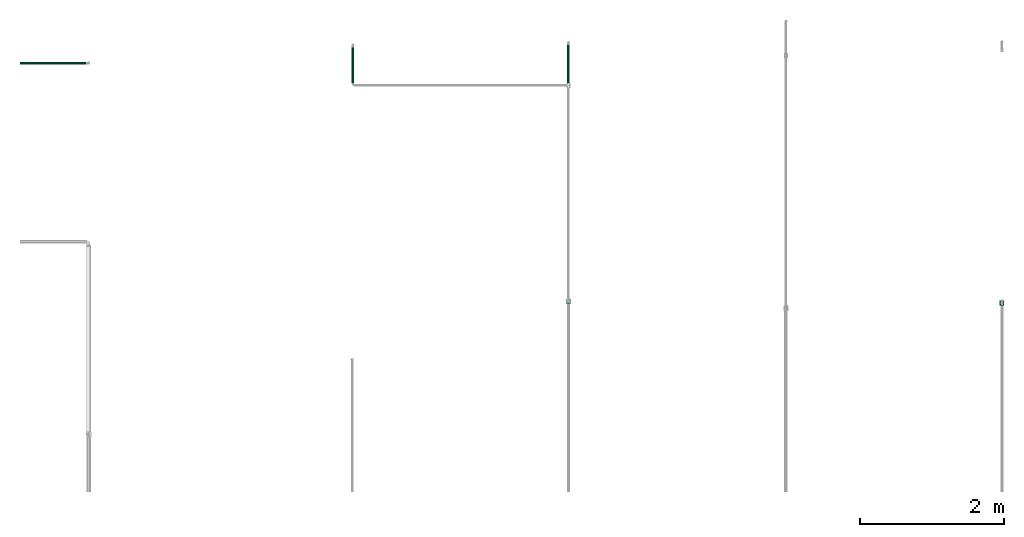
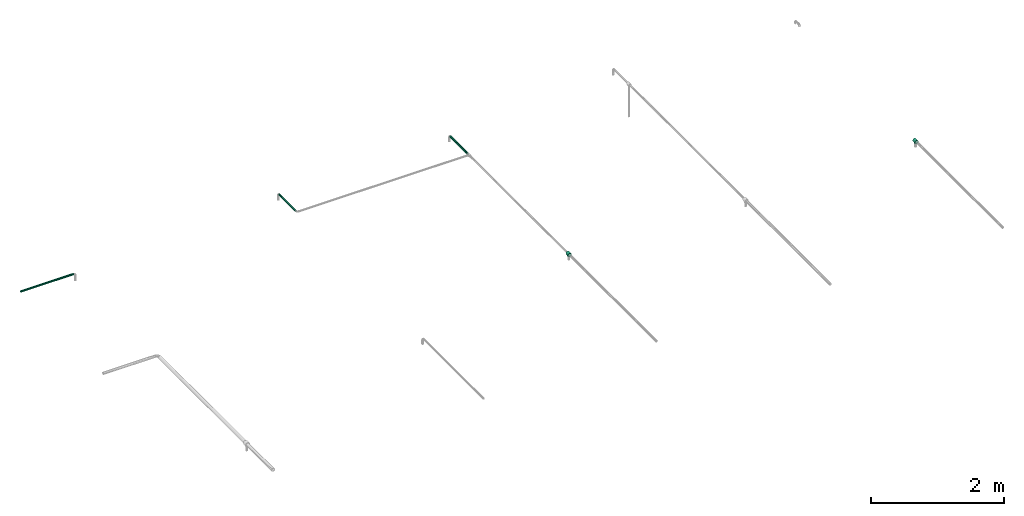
# One storey, part 2 of 17: 3 flow segments, 2 flow fittings.
"""IFC2X3 building model written with IfcOpenShell, lengths in millimetres."""

from ifc_helpers import new_model, entity, si_unit, converted_unit, derived_unit, direction, frame, origin_with_axes, origin_2d_with_axis, place, context, subcontext, project, spatial, hollow_circle, extrude, open_shell, surface_model, source, transform, mapped, type_object, element, save


model = new_model("IFC2X3")

# Units and contexts
model_context = context("Model", 3, precision=0.01, world=frame((0.0, 4.29681676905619e-09, 0.0)), true_north=direction((4.01073788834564e-13, 1.0)))
plan_context = context("Plan", 3, precision=0.01, world=frame((0.0, 4.29681676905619e-09, 0.0)), true_north=direction((4.01073788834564e-13, 1.0)))
body_context = subcontext(model_context, "Body", "Model", "MODEL_VIEW")
ifc_project = project(units=[converted_unit("PLANEANGLEUNIT", "DEGREE", entity("IfcPositiveLengthMeasure", 0.0174532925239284), si_unit("PLANEANGLEUNIT", "RADIAN"), dimensions=[0, 0, 0, 0, 0, 0, 0]), si_unit("AREAUNIT", "SQUARE_METRE"), si_unit("LENGTHUNIT", "METRE", prefix="MILLI"), si_unit("MASSUNIT", "GRAM", prefix="KILO"), si_unit("POWERUNIT", "WATT"), si_unit("PRESSUREUNIT", "PASCAL"), si_unit("FORCEUNIT", "NEWTON", prefix="KILO"), si_unit("ELECTRICVOLTAGEUNIT", "VOLT"), si_unit("ELECTRICCURRENTUNIT", "AMPERE"), si_unit("THERMODYNAMICTEMPERATUREUNIT", "DEGREE_CELSIUS"), si_unit("TIMEUNIT", "SECOND"), si_unit("VOLUMEUNIT", "CUBIC_METRE"), derived_unit("LINEARVELOCITYUNIT", [(si_unit("LENGTHUNIT", "METRE"), 1), (si_unit("TIMEUNIT", "SECOND"), -1)]), derived_unit("VOLUMETRICFLOWRATEUNIT", [(si_unit("VOLUMEUNIT", "CUBIC_METRE"), 1), (si_unit("TIMEUNIT", "SECOND"), -1)]), derived_unit("THERMALTRANSMITTANCEUNIT", [(si_unit("POWERUNIT", "WATT"), 1), (si_unit("THERMODYNAMICTEMPERATUREUNIT", "KELVIN"), -1), (si_unit("AREAUNIT", "SQUARE_METRE"), -1)]), derived_unit("SOUNDPRESSUREUNIT", [(si_unit("PRESSUREUNIT", "PASCAL"), 1)])], contexts=[model_context, plan_context])

# Site, building, storey
site_placement = place(None, frame((0.0, -4.29681676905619e-09, 0.0), z_axis=(0.0, 0.0, 1.0), x_axis=(1.0, 0.0, 0.0)))
site = spatial("IfcSite", under=ifc_project, at=site_placement, Name="ENGM", CompositionType="ELEMENT")
building_placement = place(site_placement, frame((0.0, 4.29681676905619e-09, 0.0), z_axis=(0.0, 0.0, 1.0), x_axis=(1.0, 0.0, 0.0)))
building = spatial("IfcBuilding", under=site, at=building_placement, Name="TH", CompositionType="ELEMENT")
storey_placement = place(building_placement, frame((0.0, 0.0, 205200.0), z_axis=(0.0, 0.0, 1.0), x_axis=(1.0, 0.0, 0.0)))
storey = spatial("IfcBuildingStorey", under=building, at=storey_placement, Name="Nivå D + 1,2 m", CompositionType="ELEMENT", Elevation=205200.0)

# Flow fittings
pipe_fitting_type = type_object("IfcPipeFittingType", Name="magi_pipe_fe_tee_centric_90_NOR 2", PredefinedType="JUNCTION")
shared_shape_1 = source(origin_with_axes(), body_context, "Body", "SurfaceModel", [
    surface_model("IfcShellBasedSurfaceModel", [(-33.8, 0.0, -21.2), (-33.8, -5.48696, -20.47763), (-33.8, 5.48696, -20.47763), (-33.8, 10.6, -18.35974), (-33.8, 14.99066, -14.99066), (-33.8, -20.47763, 5.48696), (-33.8, 18.35974, -10.6), (-33.8, 10.6, 18.35974), (-33.8, -14.99066, -14.99066), (-33.8, -18.35974, -10.6), (-33.8, -10.6, -18.35974), (-33.8, -20.47763, -5.48696), (-33.8, -21.2, 0.0), (-33.8, 18.35974, 10.6), (-33.8, 20.47763, -5.48696), (-33.8, 20.47763, 5.48696), (-33.8, 21.2, 0.0), (-33.8, 14.99066, 14.99066), (-33.8, 5.48696, 20.47763), (-33.8, 0.0, 21.2), (-33.8, -18.35974, 10.6), (-33.8, -14.99066, 14.99066), (-33.8, -10.6, 18.35974), (-33.8, -5.48696, 20.47763), (33.8, 5.48696, -20.47763), (33.8, -5.48696, -20.47763), (33.8, 0.0, -21.2), (33.8, 14.99066, -14.99066), (33.8, 10.6, -18.35974), (33.8, 18.35974, -10.6), (33.8, 20.47763, -5.48696), (33.8, -21.2, 0.0), (33.8, -10.6, -18.35974), (33.8, -18.35974, -10.6), (33.8, -14.99066, -14.99066), (33.8, -20.47763, -5.48696), (33.8, -20.47763, 5.48696), (33.8, 21.2, 0.0), (33.8, 20.47763, 5.48696), (33.8, 18.35974, 10.6), (33.8, 10.6, 18.35974), (33.8, 14.99066, 14.99066), (33.8, 0.0, 21.2), (33.8, 5.48696, 20.47763), (33.8, -14.99066, 14.99066), (33.8, -18.35974, 10.6), (33.8, -10.6, 18.35974), (33.8, -5.48696, 20.47763), (16.9, -21.2, 0.0), (15.78624, -20.32327, 6.03364), (12.81343, -18.11115, 11.01935), (8.52479, -15.37862, 14.59239), (3.07939, -13.16482, 16.61708), (-16.9, -21.2, 0.0), (-15.78686, -20.32375, 6.032), (-8.52604, -15.37932, 14.59166), (-3.0848, -13.16609, 16.61608), (-12.81602, -18.11299, 11.01634), (3.07939, -13.16482, -16.61708), (12.81343, -18.11115, -11.01935), (8.52479, -15.37862, -14.59239), (15.78624, -20.32327, -6.03364), (-3.0848, -13.16609, -16.61608), (-8.52604, -15.37932, -14.59166), (-12.81602, -18.11299, -11.01634), (-15.78686, -20.32375, -6.032), (4.37404, -31.8, -16.32415), (-16.9, -31.8, 0.0), (0.0, -31.8, -16.9), (14.63583, -31.8, -8.45), (8.45, -31.8, -14.63583), (16.32415, -31.8, -4.37404), (11.9501, -31.8, -11.9501), (-11.9501, -31.8, -11.9501), (-8.45, -31.8, -14.63583), (-4.37404, -31.8, -16.32415), (-14.63583, -31.8, -8.45), (-16.32415, -31.8, -4.37404), (8.45, -31.8, 14.63583), (16.32415, -31.8, 4.37404), (14.63583, -31.8, 8.45), (11.9501, -31.8, 11.9501), (-16.32415, -31.8, 4.37404), (-11.9501, -31.8, 11.9501), (-14.63583, -31.8, 8.45), (-8.45, -31.8, 14.63583), (0.0, -31.8, 16.9), (-4.37404, -31.8, 16.32415), (-16.34343, -20.76188, 3.016), (16.34312, -20.76163, 3.01682), (-0.00271, -13.16546, 16.61658), (4.37404, -31.8, 16.32415), (16.9, -31.8, 0.0), (16.34312, -20.76163, -3.01682), (-0.00271, -13.16546, -16.61658), (-16.34343, -20.76188, -3.016), (-33.8, 15.1, -26.15397), (-33.8, 7.81634, -29.17096), (-33.8, 0.0, -30.2), (-33.8, 29.17096, -7.81634), (-33.8, 26.15397, -15.1), (-33.8, 21.35462, -21.35462), (-33.8, 30.2, 0.0), (-33.8, -30.2, 0.0), (-33.8, -15.1, -26.15397), (-33.8, -21.35462, -21.35462), (-33.8, -7.81634, -29.17096), (-33.8, -26.15397, -15.1), (-33.8, -29.17096, -7.81634), (-33.8, 26.15397, 15.1), (-33.8, 29.17096, 7.81634), (-33.8, 15.1, 26.15397), (-33.8, -21.35462, 21.35462), (-33.8, 21.35462, 21.35462), (-33.8, 7.81634, 29.17096), (-33.8, -29.17096, 7.81634), (-33.8, -26.15397, 15.1), (-33.8, 0.0, 30.2), (33.8, -7.81634, -29.17096), (33.8, -21.35462, -21.35462), (33.8, -15.1, -26.15397), (33.8, -29.17096, -7.81634), (33.8, -26.15397, -15.1), (33.8, -30.2, 0.0), (33.8, 0.0, -30.2), (33.8, 30.2, 0.0), (33.8, 29.17096, 7.81634), (33.8, 26.15397, 15.1), (33.8, 15.1, 26.15397), (33.8, 21.35462, 21.35462), (33.8, 7.81634, 29.17096), (33.8, 0.0, 30.2), (33.8, -21.35462, 21.35462), (33.8, -7.81634, 29.17096), (-33.8, -7.81634, 29.17096), (33.8, 29.17096, -7.81634), (33.8, 26.15397, -15.1), (33.8, 21.35462, -21.35462), (33.8, 15.1, -26.15397), (33.8, 7.81634, -29.17096), (0.0, -31.8, -25.9), (6.70341, -31.8, -25.01748), (12.95, -31.8, -22.43006), (-6.70341, -31.8, -25.01748), (22.43006, -31.8, -12.95), (25.01748, -31.8, -6.70341), (18.31407, -31.8, -18.31407), (-18.31407, -31.8, -18.31407), (-12.95, -31.8, -22.43006), (-25.01748, -31.8, -6.70341), (-22.43006, -31.8, -12.95), (-25.9, -31.8, 0.0), (-18.31407, -31.8, 18.31407), (25.9, -31.8, 0.0), (25.01748, -31.8, 6.70341), (22.43006, -31.8, 12.95), (12.95, -31.8, 22.43006), (18.31407, -31.8, 18.31407), (0.0, -31.8, 25.9), (6.70341, -31.8, 25.01748), (-25.01748, -31.8, 6.70341), (-22.43006, -31.8, 12.95), (-6.70341, -31.8, 25.01748), (-12.95, -31.8, 22.43006), (-25.23811, -31.8, 5.02756), (-25.02404, -29.45583, 4.68189), (-19.54537, -24.96501, 16.99378), (-23.72377, -31.8, 9.82671), (-24.14808, -28.71166, 9.36378), (-13.02592, -20.27078, 22.38606), (-24.58606, -29.08375, 7.02284), (-25.46202, -29.82792, 2.34095), (-25.67937, -31.8, 1.67585), (-25.45874, -31.8, 3.35171), (-21.84672, -26.83834, 13.17878), (25.67937, -31.8, 1.67585), (25.68112, -30.01405, 1.17018), (25.46224, -29.82811, 2.34036), (-4.77205, -16.24815, 25.45658), (4.78083, -16.25074, 25.45493), (0.00439, -16.24944, 25.45576), (25.02449, -29.45621, 4.68072), (24.58674, -29.08432, 7.02108), (25.45874, -31.8, 3.35171), (13.02722, -20.27161, 22.3853), (19.54804, -24.96709, 16.99071), (25.9, -30.2, 0.0), (-25.68101, -30.01396, 1.17047), (-25.9, -30.2, 0.0), (23.72377, -31.8, 9.82671), (24.14898, -28.71243, 9.36144), (21.84851, -26.83976, 13.17608), (25.23811, -31.8, 5.02756), (25.23811, -31.8, -5.02756), (25.02449, -29.45621, -4.68072), (19.54804, -24.96709, -16.99071), (23.72377, -31.8, -9.82671), (24.14898, -28.71243, -9.36144), (13.02722, -20.27161, -22.3853), (24.58674, -29.08432, -7.02108), (25.46224, -29.82811, -2.34036), (25.67937, -31.8, -1.67585), (25.45874, -31.8, -3.35171), (21.84851, -26.83976, -13.17608), (-24.14808, -28.71166, -9.36378), (-21.84672, -26.83834, -13.17878), (4.78083, -16.25074, -25.45493), (-4.77205, -16.24815, -25.45658), (0.00439, -16.24944, -25.45576), (-25.02404, -29.45583, -4.68189), (-24.58606, -29.08375, -7.02284), (-25.23811, -31.8, -5.02756), (25.68112, -30.01405, -1.17018), (-25.68101, -30.01396, -1.17047), (-25.67937, -31.8, -1.67585), (-25.46202, -29.82792, -2.34095), (-25.45874, -31.8, -3.35171), (-13.02592, -20.27078, -22.38606), (-19.54537, -24.96501, -16.99378), (-23.72377, -31.8, -9.82671), (-33.8, -15.1, 26.15397), (33.8, -26.15397, 15.1), (33.8, -29.17096, 7.81634), (33.8, -15.1, 26.15397), (33.8, -29.42822, 5.86225), (33.8, -29.68548, 3.90817), (33.8, -29.94274, 1.95408), (33.8, -26.90822, 13.27908), (16.28763, -22.61935, 19.68801), (33.8, -23.7543, 18.22731), (-33.8, -27.66246, 11.45817), (-22.9974, -27.775, 11.27128), (33.8, -28.41671, 9.63725), (22.99875, -27.77609, 11.26876), (-20.69605, -25.90167, 15.08628), (20.69827, -25.90343, 15.08339), (-33.8, -29.68548, 3.90817), (-33.8, -28.41671, 9.63725), (33.8, -27.66246, 11.45817), (-33.8, -29.94274, 1.95408), (-33.8, -23.7543, 18.22731), (-33.8, -26.90822, 13.27908), (-16.28564, -22.61789, 19.68992), (-33.8, -29.42822, 5.86225), (33.8, -29.68548, -3.90817), (33.8, -29.94274, -1.95408), (-33.8, -28.41671, -9.63725), (22.99875, -27.77609, -11.26876), (33.8, -28.41671, -9.63725), (33.8, -27.66246, -11.45817), (20.69827, -25.90343, -15.08339), (-33.8, -27.66246, -11.45817), (-22.9974, -27.775, -11.27128), (-20.69605, -25.90167, -15.08628), (33.8, -29.42822, -5.86225), (16.28763, -22.61935, -19.68801), (33.8, -23.7543, -18.22731), (-33.8, -23.7543, -18.22731), (-33.8, -29.68548, -3.90817), (-33.8, -29.42822, -5.86225), (33.8, -26.90822, -13.27908), (-16.28564, -22.61789, -19.68992), (-33.8, -29.94274, -1.95408), (-33.8, -26.90822, -13.27908)], [open_shell([[[0, 1, 2]], [[3, 2, 4]], [[5, 2, 1]], [[4, 2, 6]], [[6, 2, 7]], [[8, 9, 10]], [[1, 10, 9]], [[9, 11, 1]], [[12, 1, 11]], [[5, 1, 12]], [[13, 14, 6]], [[13, 15, 16]], [[6, 7, 13]], [[5, 7, 2]], [[17, 13, 7]], [[18, 7, 19]], [[20, 21, 5]], [[22, 5, 21]], [[23, 19, 22]], [[7, 5, 22]], [[22, 19, 7]], [[16, 14, 13]], [[24, 25, 26]], [[27, 24, 28]], [[29, 30, 24]], [[29, 24, 27]], [[31, 24, 30]], [[32, 33, 34]], [[33, 32, 25]], [[33, 31, 35]], [[31, 33, 25]], [[25, 24, 31]], [[30, 36, 31]], [[37, 38, 39]], [[37, 39, 40]], [[37, 40, 36]], [[40, 39, 41]], [[42, 40, 43]], [[36, 44, 45]], [[44, 36, 46]], [[46, 42, 47]], [[46, 36, 40]], [[40, 42, 46]], [[37, 36, 30]], [[31, 36, 48]], [[49, 48, 36]], [[36, 45, 49]], [[45, 44, 50]], [[51, 50, 44]], [[52, 51, 44]], [[44, 46, 52]], [[45, 50, 49]], [[53, 54, 5]], [[5, 12, 53]], [[54, 20, 5]], [[55, 56, 21]], [[20, 57, 21]], [[57, 20, 54]], [[21, 57, 55]], [[56, 22, 21]], [[52, 22, 56]], [[19, 47, 42]], [[23, 46, 47]], [[18, 42, 43]], [[39, 38, 15]], [[17, 40, 41]], [[13, 41, 39]], [[43, 40, 7]], [[16, 38, 37]], [[22, 46, 23]], [[23, 47, 19]], [[18, 19, 42]], [[43, 7, 18]], [[7, 40, 17]], [[13, 17, 41]], [[15, 13, 39]], [[38, 16, 15]], [[46, 22, 52]], [[6, 30, 29]], [[14, 37, 30]], [[4, 29, 27]], [[26, 25, 1]], [[2, 28, 24]], [[0, 24, 26]], [[27, 28, 3]], [[10, 25, 32]], [[16, 37, 14]], [[14, 30, 6]], [[4, 6, 29]], [[27, 3, 4]], [[3, 28, 2]], [[0, 2, 24]], [[1, 0, 26]], [[25, 10, 1]], [[32, 58, 10]], [[34, 59, 60]], [[59, 34, 33]], [[60, 58, 34]], [[34, 58, 32]], [[35, 31, 48]], [[35, 61, 33]], [[61, 35, 48]], [[33, 61, 59]], [[62, 63, 8]], [[8, 64, 9]], [[64, 8, 63]], [[62, 8, 10]], [[65, 53, 11]], [[65, 11, 9]], [[11, 53, 12]], [[65, 9, 64]], [[58, 62, 10]], [[66, 67, 68]], [[69, 66, 70]], [[69, 71, 66]], [[69, 70, 72]], [[67, 66, 71]], [[68, 73, 74]], [[74, 75, 68]], [[76, 67, 77]], [[73, 68, 76]], [[67, 76, 68]], [[78, 79, 80]], [[78, 80, 81]], [[82, 83, 84]], [[85, 86, 87]], [[82, 88, 67]], [[57, 84, 83]], [[82, 84, 54]], [[83, 85, 55]], [[82, 54, 88]], [[88, 53, 67]], [[54, 84, 57]], [[89, 49, 79]], [[55, 87, 56]], [[55, 57, 83]], [[86, 52, 90]], [[55, 85, 87]], [[52, 86, 91]], [[78, 51, 91]], [[50, 81, 80]], [[81, 51, 78]], [[80, 79, 49]], [[81, 50, 51]], [[51, 52, 91]], [[92, 89, 79]], [[49, 50, 80]], [[89, 92, 48]], [[86, 56, 87]], [[90, 56, 86]], [[71, 93, 92]], [[59, 69, 72]], [[71, 69, 61]], [[72, 70, 60]], [[93, 48, 92]], [[61, 69, 59]], [[60, 66, 58]], [[60, 59, 72]], [[68, 62, 94]], [[60, 70, 66]], [[95, 67, 53]], [[95, 65, 77]], [[71, 61, 93]], [[75, 62, 68]], [[65, 76, 77]], [[73, 76, 64]], [[68, 58, 66]], [[75, 63, 62]], [[63, 75, 74]], [[74, 73, 63]], [[63, 73, 64]], [[64, 76, 65]], [[67, 95, 77]], [[94, 58, 68]], [[96, 97, 98]], [[99, 96, 98]], [[96, 99, 100]], [[101, 96, 100]], [[102, 98, 103]], [[104, 105, 106]], [[105, 98, 106]], [[107, 108, 105]], [[103, 105, 108]], [[105, 103, 98]], [[102, 99, 98]], [[109, 110, 102]], [[103, 111, 109]], [[103, 112, 111]], [[113, 109, 111]], [[114, 111, 112]], [[115, 116, 103]], [[103, 116, 112]], [[112, 117, 114]], [[103, 109, 102]], [[118, 119, 120]], [[119, 118, 121]], [[119, 121, 122]], [[121, 118, 123]], [[118, 124, 123]], [[125, 126, 127]], [[128, 127, 129]], [[130, 131, 132]], [[117, 133, 131]], [[114, 131, 130]], [[127, 126, 110]], [[113, 128, 129]], [[109, 129, 127]], [[130, 128, 111]], [[102, 126, 125]], [[134, 133, 117]], [[114, 117, 131]], [[130, 111, 114]], [[111, 128, 113]], [[109, 113, 129]], [[110, 109, 127]], [[126, 102, 110]], [[100, 135, 136]], [[99, 125, 135]], [[101, 136, 137]], [[124, 118, 106]], [[97, 138, 139]], [[98, 139, 124]], [[137, 138, 96]], [[102, 125, 99]], [[99, 135, 100]], [[101, 100, 136]], [[137, 96, 101]], [[96, 138, 97]], [[98, 97, 139]], [[106, 98, 124]], [[140, 141, 142]], [[143, 140, 142]], [[144, 145, 142]], [[144, 142, 146]], [[143, 142, 145]], [[143, 147, 148]], [[147, 143, 149]], [[147, 149, 150]], [[149, 143, 151]], [[143, 145, 151]], [[145, 152, 151]], [[153, 154, 155]], [[156, 145, 155]], [[145, 156, 152]], [[156, 155, 157]], [[158, 156, 159]], [[160, 152, 161]], [[151, 152, 160]], [[152, 162, 163]], [[162, 152, 158]], [[156, 158, 152]], [[155, 145, 153]], [[164, 160, 165]], [[166, 161, 152]], [[167, 161, 168]], [[152, 163, 169]], [[170, 167, 168]], [[171, 172, 173]], [[168, 161, 174]], [[175, 176, 177]], [[169, 162, 178]], [[169, 166, 152]], [[158, 179, 180]], [[161, 166, 174]], [[169, 163, 162]], [[167, 170, 160]], [[158, 178, 162]], [[154, 181, 182]], [[179, 158, 159]], [[153, 176, 175]], [[177, 183, 175]], [[156, 184, 159]], [[185, 157, 155]], [[176, 153, 186]], [[173, 165, 171]], [[156, 157, 184]], [[151, 187, 188]], [[189, 154, 182]], [[159, 184, 179]], [[184, 157, 185]], [[155, 190, 191]], [[160, 170, 165]], [[182, 190, 189]], [[183, 177, 181]], [[181, 154, 192]], [[190, 155, 189]], [[185, 155, 191]], [[187, 151, 172]], [[165, 173, 164]], [[180, 178, 158]], [[172, 171, 187]], [[181, 192, 183]], [[193, 145, 194]], [[195, 144, 146]], [[196, 144, 197]], [[146, 142, 198]], [[199, 196, 197]], [[200, 201, 202]], [[197, 144, 203]], [[150, 204, 205]], [[198, 141, 206]], [[198, 195, 146]], [[140, 207, 208]], [[149, 209, 210]], [[198, 142, 141]], [[209, 149, 211]], [[140, 206, 141]], [[212, 153, 201]], [[207, 140, 143]], [[151, 213, 214]], [[215, 216, 214]], [[148, 217, 143]], [[147, 150, 218]], [[145, 199, 194]], [[214, 213, 215]], [[147, 217, 148]], [[209, 211, 216]], [[219, 149, 210]], [[143, 217, 207]], [[217, 147, 218]], [[144, 195, 203]], [[196, 199, 145]], [[210, 204, 219]], [[216, 215, 209]], [[213, 151, 188]], [[204, 150, 219]], [[218, 150, 205]], [[202, 194, 200]], [[153, 212, 186]], [[208, 206, 140]], [[201, 200, 212]], [[194, 202, 193]], [[220, 134, 112]], [[117, 112, 134]], [[124, 139, 138]], [[124, 138, 135]], [[136, 135, 138]], [[136, 138, 137]], [[123, 124, 127]], [[124, 135, 127]], [[127, 128, 123]], [[128, 132, 123]], [[132, 128, 130]], [[123, 221, 222]], [[132, 221, 123]], [[132, 133, 223]], [[133, 132, 131]], [[125, 127, 135]], [[182, 224, 222]], [[182, 181, 224]], [[225, 177, 226]], [[221, 191, 227]], [[132, 228, 229]], [[230, 231, 174]], [[185, 229, 228]], [[223, 179, 184]], [[132, 184, 228]], [[184, 132, 223]], [[190, 232, 233]], [[116, 234, 166]], [[170, 168, 115]], [[221, 235, 191]], [[185, 221, 229]], [[171, 165, 236]], [[168, 237, 115]], [[232, 238, 233]], [[112, 169, 220]], [[239, 188, 171]], [[116, 166, 240]], [[230, 174, 241]], [[242, 112, 240]], [[231, 237, 168]], [[169, 178, 220]], [[240, 166, 242]], [[112, 242, 169]], [[237, 231, 230]], [[179, 133, 178]], [[171, 236, 239]], [[178, 133, 134]], [[181, 225, 224]], [[225, 181, 177]], [[188, 239, 103]], [[170, 243, 165]], [[186, 226, 177]], [[116, 174, 234]], [[178, 134, 220]], [[221, 185, 235]], [[190, 222, 232]], [[191, 238, 227]], [[238, 191, 233]], [[226, 186, 123]], [[174, 116, 241]], [[222, 190, 182]], [[165, 243, 236]], [[179, 223, 133]], [[243, 170, 115]], [[200, 244, 245]], [[118, 207, 106]], [[204, 108, 246]], [[247, 248, 197]], [[248, 247, 249]], [[122, 203, 250]], [[108, 204, 210]], [[251, 205, 252]], [[107, 218, 253]], [[106, 207, 104]], [[254, 199, 121]], [[118, 120, 206]], [[255, 119, 256]], [[195, 256, 122]], [[218, 107, 257]], [[206, 120, 198]], [[122, 250, 195]], [[198, 120, 119]], [[200, 194, 244]], [[209, 258, 259]], [[121, 197, 248]], [[197, 121, 199]], [[249, 247, 203]], [[203, 260, 249]], [[210, 209, 259]], [[186, 245, 123]], [[258, 209, 215]], [[105, 261, 257]], [[217, 105, 104]], [[246, 251, 252]], [[261, 105, 217]], [[257, 261, 218]], [[119, 255, 198]], [[217, 104, 207]], [[258, 215, 262]], [[245, 186, 200]], [[107, 253, 205]], [[259, 108, 210]], [[262, 188, 103]], [[205, 251, 263]], [[107, 205, 263]], [[252, 204, 246]], [[256, 195, 255]], [[194, 254, 244]], [[199, 254, 194]], [[206, 207, 118]], [[188, 262, 215]], [[203, 122, 260]], [[71, 79, 67]], [[82, 67, 79]], [[83, 79, 78]], [[83, 78, 91]], [[82, 79, 83]], [[85, 83, 91]], [[86, 85, 91]], [[79, 71, 92]]])]),
])
for number, where, z_axis, x_axis, name in (
    (1, (902429.75707, 478676.11818, 4450.0), (-1.0, 0.0, 0.0), (0.0, -1.0, 0.0), "magi_pipe_fe_tee_centric_90_NOR 2"),
    (2, (908433.37511, 478654.92479, 4432.21101), (-1.0, 0.0, 0.0), (0.0, -1.0, 0.0), "magi_pipe_fe_tee_centric_90_NOR 2"),
):
    element("IfcFlowFitting", number, at=place(storey_placement, frame(where, z_axis=z_axis, x_axis=x_axis)), inside=storey, type_object=pipe_fitting_type, Name=name, context=body_context, shape_type="MappedRepresentation", body=[
        mapped(shared_shape_1, transform((0.0, 0.0, 0.0), scale=1.0)),
    ])

# Flow segments
pipe_segment_type = type_object("IfcPipeSegmentType", Name="Stålrør normaltykke", PredefinedType="RIGIDSEGMENT")
shared_shape_2 = source(origin_with_axes(), body_context, "Body", "SweptSolid", [
    extrude(hollow_circle(Radius=16.9, WallThickness=2.0, at=origin_2d_with_axis()), frame((0.0, 0.0, 0.0), z_axis=(1.0, 0.0, 0.0), x_axis=(0.0, 1.0, 0.0)), (0.0, 0.0, 1.0), 492.4),
])
flow_segment_1_placement = place(storey_placement, frame((899443.61593, 481703.08614, 4450.15312), z_axis=(0.0, 0.0, 1.0), x_axis=(0.0, 1.0, 0.0)))
element("IfcFlowSegment", 3, at=flow_segment_1_placement, inside=storey, type_object=pipe_segment_type, Name="Stålrør normaltykke", context=body_context, shape_type="MappedRepresentation", body=[
    mapped(shared_shape_2, transform((0.0, 0.0, 0.0), scale=1.0)),
])
shared_shape_3 = source(origin_with_axes(), body_context, "Body", "SweptSolid", [
    extrude(hollow_circle(Radius=16.9, WallThickness=2.0, at=origin_2d_with_axis()), frame((0.0, 0.0, 0.0), z_axis=(1.0, 0.0, 0.0), x_axis=(0.0, 1.0, 0.0)), (0.0, 0.0, 1.0), 523.2),
])
flow_segment_2_placement = place(storey_placement, frame((902429.75707, 481703.08614, 4450.0), z_axis=(0.0, 0.0, 1.0), x_axis=(0.0, 1.0, 0.0)))
element("IfcFlowSegment", 4, at=flow_segment_2_placement, inside=storey, type_object=pipe_segment_type, Name="Stålrør normaltykke", context=body_context, shape_type="MappedRepresentation", body=[
    mapped(shared_shape_3, transform((0.0, 0.0, 0.0), scale=1.0)),
])
shared_shape_4 = source(origin_with_axes(), body_context, "Body", "SweptSolid", [
    extrude(hollow_circle(Radius=16.9, WallThickness=2.0, at=origin_2d_with_axis()), frame((0.0, 0.0, 0.0), z_axis=(1.0, 0.0, 0.0), x_axis=(0.0, 1.0, 0.0)), (0.0, 0.0, 1.0), 916.4),
])
flow_segment_3_placement = place(storey_placement, frame((895748.48738, 481977.62186, 4417.88264999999), z_axis=(0.0, 0.0, 1.0), x_axis=(-1.0, 0.0, 0.0)))
element("IfcFlowSegment", 5, at=flow_segment_3_placement, inside=storey, type_object=pipe_segment_type, Name="Stålrør normaltykke", context=body_context, shape_type="MappedRepresentation", body=[
    mapped(shared_shape_4, transform((0.0, 0.0, 0.0), scale=1.0)),
])

save(model, "model.ifc")
